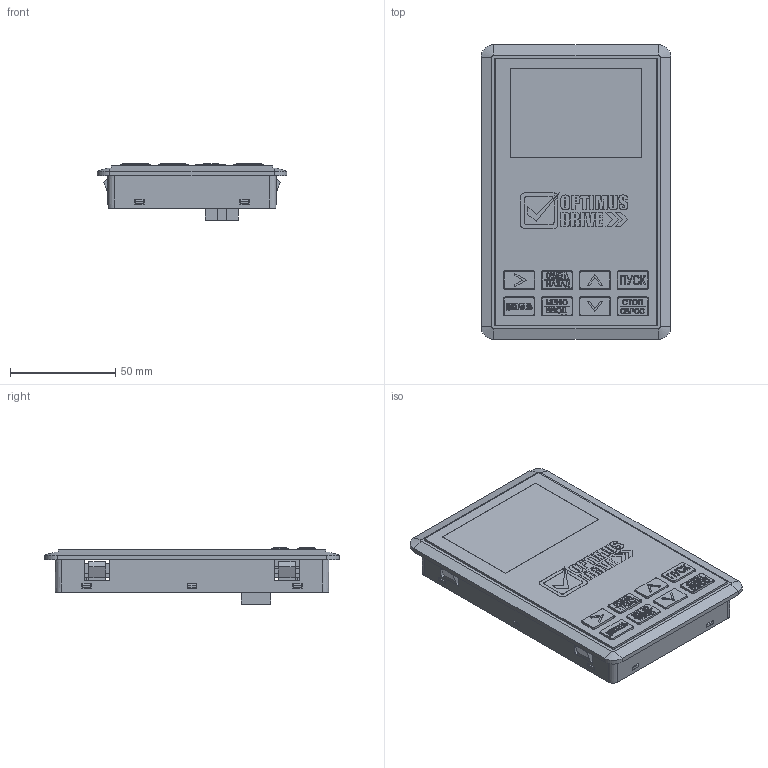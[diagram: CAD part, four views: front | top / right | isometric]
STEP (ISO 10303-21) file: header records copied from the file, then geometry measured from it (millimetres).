
FILE_DESCRIPTION((''),'2;1');
FILE_NAME('0001_ASM','2025-02-21T09:11:31',('Administrator'),(''),'CREO PARAMETRIC BY PTC INC, 2021063','CREO PARAMETRIC BY PTC INC, 2021063','');
FILE_SCHEMA(('AUTOMOTIVE_DESIGN { 1 0 10303 214 1 1 1 1 }'));
Products named in the file (12): 68000001; 6800-PCB000; _COG-66-10001; _6-6-80001; 080500; _0001; 6800-PCB0001_ASM; 68000002; 6800-0002; 6800-0003; LOGO-OP; 0001_ASM
Assembly tree (25 placements, depth 3):
  0001_ASM
    68000001
    6800-PCB0001_ASM
      6800-PCB000
      _COG-66-10001
      _6-6-80001  x8
      080500  x8
      _0001
    68000002
    6800-0002
    6800-0003
    LOGO-OP
Bounding box: 90 x 140 x 26.7 mm (x, y, z)
Volume: 102935.9 mm3; surface area: 118115.9 mm2
Topology: 39 solids, 39 shells, 2486 faces, 6775 edges, 4506 vertices
Faces by surface type: plane 1677, extrusion 427, cylinder 264, cone 102, torus 16
Entity records: 83531 total; most frequent: CARTESIAN_POINT 15496, ORIENTED_EDGE 11058, DIRECTION 8840, EDGE_CURVE 5529, PRESENTATION_STYLE_ASSIGNMENT 4902, STYLED_ITEM 4838, VECTOR 4624, CURVE_STYLE 4385
